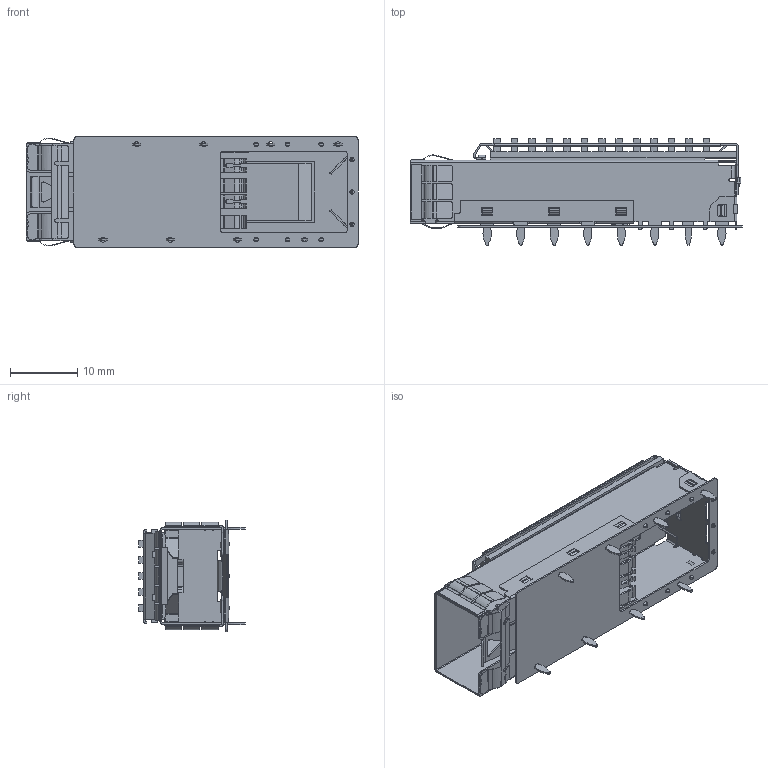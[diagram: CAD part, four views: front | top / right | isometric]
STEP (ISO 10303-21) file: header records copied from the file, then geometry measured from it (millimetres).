
FILE_DESCRIPTION (( 'STEP AP203' ), '1' );
FILE_NAME ('10730211W018-諦誧3D .STEP', '2023-11-13T06:42:13', ( '' ), ( '' ), 'SwSTEP 2.0', 'SolidWorks 2016', '' );
FILE_SCHEMA (( 'CONFIG_CONTROL_DESIGN' ));
Length unit declared in the file: millimetre
Products named in the file (3): SFP 1X1上盖（ 站脚高0.60鱼眼脚长2.90）_CAGE+无弹片+带散热窗口+带散热支架+侧面带CZT+侧面7只鱼眼脚站脚高0.60鱼眼脚长2.90+后盖3只小直脚长1.2带布线避位+后盖带折弯工艺孔+后盖带散热片扣点_2; 10730211W018-諦誧3D ; 葩璃 錨璃1^蚾饜极2_2
Assembly tree (2 placements, depth 2):
  10730211W018-諦誧3D 
    葩璃 錨璃1^蚾饜极2_2
    SFP 1X1上盖（ 站脚高0.60鱼眼脚长2.90）_CAGE+无弹片+带散热窗口+带散热支架+侧面带CZT+侧面7只鱼眼脚站脚高0.60鱼眼脚长2.90+后盖3只小直脚长1.2带布线避位+后盖带折弯工艺孔+后盖带散热片扣点_2
Bounding box: 49.5 x 15.85 x 16.6 mm (x, y, z)
Volume: 1681.3 mm3; surface area: 8056.8 mm2
Topology: 7 solids, 7 shells, 1724 faces, 5101 edges, 3382 vertices
Faces by surface type: plane 1039, cylinder 669, bspline 16
Full cylindrical faces by diameter (mm): 0.65 x10, 0.75 x7
Entity records: 59088 total; most frequent: CARTESIAN_POINT 11546, ORIENTED_EDGE 10168, DIRECTION 9730, EDGE_CURVE 5084, VECTOR 3656, LINE 3656, VERTEX_POINT 3382, AXIS2_PLACEMENT_3D 3037
